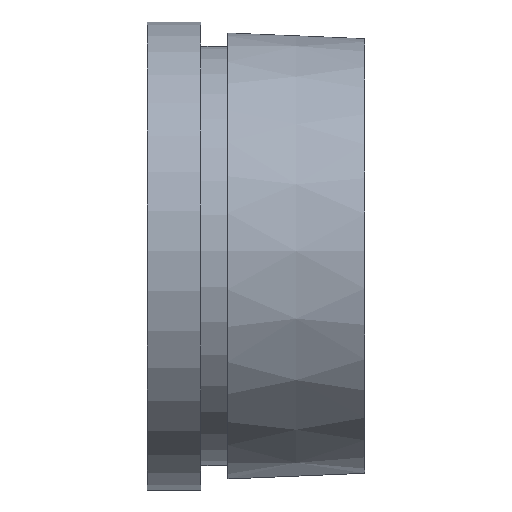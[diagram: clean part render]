
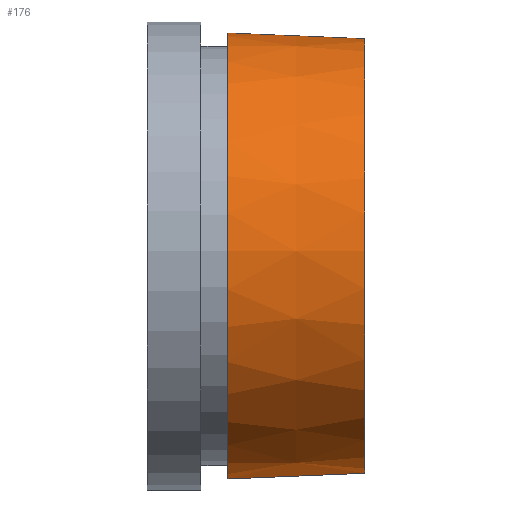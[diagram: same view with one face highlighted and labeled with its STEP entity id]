
A CAD part, top view. The second image highlights one B-rep face of the part: STEP entity #176.
In plain terms, the highlighted conical face has half-angle 2.386 degrees and reference radius 32.927 mm.
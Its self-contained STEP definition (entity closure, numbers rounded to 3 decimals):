
#18=CONICAL_SURFACE('',#211,32.927,0.042);
#19=CIRCLE('',#209,33.354);
#21=CIRCLE('',#212,32.5);
#30=FACE_OUTER_BOUND('',#40,.T.);
#40=EDGE_LOOP('',(#139,#140,#141,#142));
#51=LINE('',#290,#67);
#59=LINE('',#307,#75);
#67=VECTOR('',#232,10.);
#75=VECTOR('',#242,10.);
#83=VERTEX_POINT('',#287);
#84=VERTEX_POINT('',#289);
#91=VERTEX_POINT('',#304);
#92=VERTEX_POINT('',#306);
#99=EDGE_CURVE('',#84,#83,#51,.T.);
#107=EDGE_CURVE('',#92,#91,#59,.T.);
#111=EDGE_CURVE('',#91,#84,#19,.T.);
#113=EDGE_CURVE('',#92,#83,#21,.T.);
#139=ORIENTED_EDGE('',*,*,#99,.T.);
#140=ORIENTED_EDGE('',*,*,#113,.F.);
#141=ORIENTED_EDGE('',*,*,#107,.T.);
#142=ORIENTED_EDGE('',*,*,#111,.T.);
#176=ADVANCED_FACE('',(#30),#18,.T.);
#209=AXIS2_PLACEMENT_3D('',#314,#248,#249);
#211=AXIS2_PLACEMENT_3D('',#316,#252,#253);
#212=AXIS2_PLACEMENT_3D('',#317,#254,#255);
#232=DIRECTION('',(0.999,0.042,0.));
#242=DIRECTION('',(-0.999,-0.042,0.));
#248=DIRECTION('center_axis',(1.,0.,0.));
#249=DIRECTION('ref_axis',(0.,0.,-1.));
#252=DIRECTION('center_axis',(-1.,0.,0.));
#253=DIRECTION('ref_axis',(0.,1.,0.));
#254=DIRECTION('center_axis',(1.,0.,0.));
#255=DIRECTION('ref_axis',(0.,0.,-1.));
#287=CARTESIAN_POINT('',(-3.5,-32.473,1.333));
#289=CARTESIAN_POINT('',(-24.,-33.328,1.333));
#290=CARTESIAN_POINT('',(-13.75,-32.9,1.333));
#304=CARTESIAN_POINT('',(-24.,-33.328,-1.333));
#306=CARTESIAN_POINT('',(-3.5,-32.473,-1.333));
#307=CARTESIAN_POINT('',(-13.75,-32.9,-1.333));
#314=CARTESIAN_POINT('Origin',(-24.,0.,0.));
#316=CARTESIAN_POINT('Origin',(-13.75,0.,0.));
#317=CARTESIAN_POINT('Origin',(-3.5,0.,
0.));
